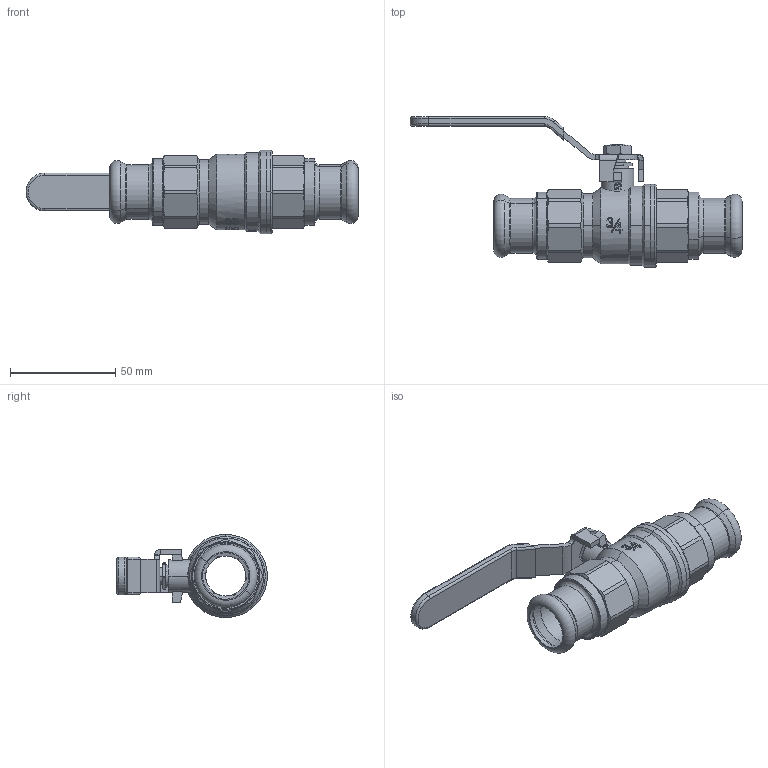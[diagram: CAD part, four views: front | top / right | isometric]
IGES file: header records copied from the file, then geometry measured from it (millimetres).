
Global section: file name: No Iges File Name specified; native system: AutoDesk Inventor R12.0; preprocessor: AutoDesk Inventor Iges Exporter R12.0; date: 20120118.100521; units: millimetre
Bounding box: 157.6 x 71.55 x 39.5 mm (x, y, z)
Volume: 60486.9 mm3; surface area: 38876.9 mm2
Topology: 1 solids, 12 shells, 789 faces, 2480 edges, 1808 vertices
Faces by surface type: plane 317, bspline 133, revolution 110, cylinder 104, cone 79, torus 42, sphere 4
Full cylindrical faces by diameter (mm): 36 x1
